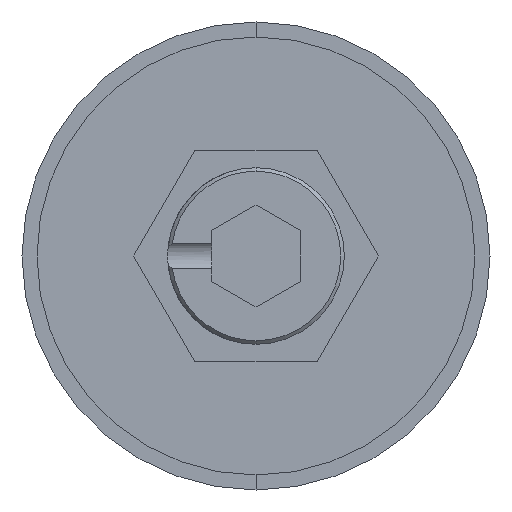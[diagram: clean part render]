
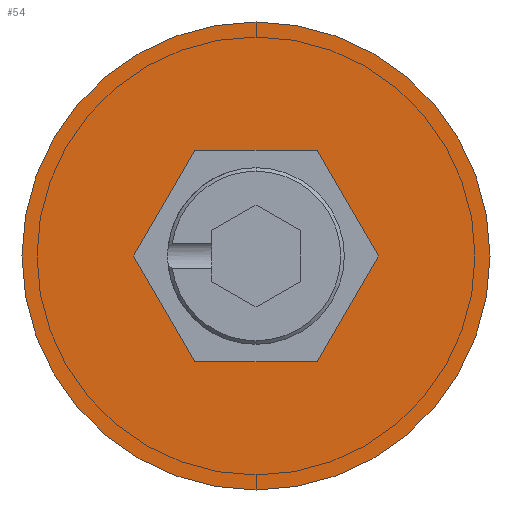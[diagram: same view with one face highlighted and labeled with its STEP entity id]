
A CAD part, front view. The second image highlights one B-rep face of the part: STEP entity #54.
In plain terms, the highlighted planar face has unit normal (0, -1, 0).
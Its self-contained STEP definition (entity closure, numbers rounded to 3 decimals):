
#13 = DIRECTION ( 'NONE',  ( 0., 0., -1. ) ) ;
#54 = ADVANCED_FACE ( 'NONE', ( #642, #662 ), #1541, .T. ) ;
#144 = ORIENTED_EDGE ( 'NONE', *, *, #1380, .F. ) ;
#148 = LINE ( 'NONE', #1231, #620 ) ;
#192 = CARTESIAN_POINT ( 'NONE',  ( -3.464, 0., -6. ) ) ;
#198 = DIRECTION ( 'NONE',  ( 0., -1., 0. ) ) ;
#212 = EDGE_CURVE ( 'NONE', #1117, #1332, #1962, .T. ) ;
#262 = EDGE_CURVE ( 'NONE', #1682, #933, #684, .T. ) ;
#294 = ORIENTED_EDGE ( 'NONE', *, *, #1017, .F. ) ;
#322 = AXIS2_PLACEMENT_3D ( 'NONE', #2076, #198, #13 ) ;
#323 = VERTEX_POINT ( 'NONE', #192 ) ;
#399 = DIRECTION ( 'NONE',  ( -0.5, 0., 0.866 ) ) ;
#417 = ORIENTED_EDGE ( 'NONE', *, *, #1663, .F. ) ;
#421 = LINE ( 'NONE', #879, #2168 ) ;
#435 = ORIENTED_EDGE ( 'NONE', *, *, #1443, .T. ) ;
#465 = VERTEX_POINT ( 'NONE', #1579 ) ;
#497 = ORIENTED_EDGE ( 'NONE', *, *, #1418, .F. ) ;
#620 = VECTOR ( 'NONE', #693, 1000. ) ;
#642 = FACE_BOUND ( 'NONE', #1846, .T. ) ;
#648 = ORIENTED_EDGE ( 'NONE', *, *, #262, .T. ) ;
#662 = FACE_OUTER_BOUND ( 'NONE', #2183, .T. ) ;
#684 = CIRCLE ( 'NONE', #765, 13.25 ) ;
#693 = DIRECTION ( 'NONE',  ( 0.5, 0., 0.866 ) ) ;
#765 = AXIS2_PLACEMENT_3D ( 'NONE', #1451, #1532, #1547 ) ;
#879 = CARTESIAN_POINT ( 'NONE',  ( -3.464, 0., -6. ) ) ;
#887 = DIRECTION ( 'NONE',  ( 0.5, 0., -0.866 ) ) ;
#915 = CARTESIAN_POINT ( 'NONE',  ( 3.464, 0., -6. ) ) ;
#933 = VERTEX_POINT ( 'NONE', #2185 ) ;
#987 = CARTESIAN_POINT ( 'NONE',  ( -3.464, 0., 6. ) ) ;
#990 = LINE ( 'NONE', #2093, #1906 ) ;
#991 = VECTOR ( 'NONE', #887, 1000. ) ;
#1017 = EDGE_CURVE ( 'NONE', #1458, #1117, #148, .T. ) ;
#1117 = VERTEX_POINT ( 'NONE', #1183 ) ;
#1173 = CARTESIAN_POINT ( 'NONE',  ( 6.928, 0., 0. ) ) ;
#1183 = CARTESIAN_POINT ( 'NONE',  ( 6.928, 0., 0. ) ) ;
#1231 = CARTESIAN_POINT ( 'NONE',  ( 3.464, 0., -6. ) ) ;
#1250 = ORIENTED_EDGE ( 'NONE', *, *, #1893, .F. ) ;
#1332 = VERTEX_POINT ( 'NONE', #2121 ) ;
#1347 = LINE ( 'NONE', #1396, #991 ) ;
#1380 = EDGE_CURVE ( 'NONE', #323, #1458, #421, .T. ) ;
#1396 = CARTESIAN_POINT ( 'NONE',  ( -6.928, 0., 0. ) ) ;
#1418 = EDGE_CURVE ( 'NONE', #2015, #323, #1347, .T. ) ;
#1443 = EDGE_CURVE ( 'NONE', #933, #1682, #2176, .T. ) ;
#1451 = CARTESIAN_POINT ( 'NONE',  ( 0., 0., 0. ) ) ;
#1458 = VERTEX_POINT ( 'NONE', #915 ) ;
#1487 = CARTESIAN_POINT ( 'NONE',  ( 0., 0., 0. ) ) ;
#1532 = DIRECTION ( 'NONE',  ( 0., -1., 0. ) ) ;
#1541 = PLANE ( 'NONE',  #2063 ) ;
#1547 = DIRECTION ( 'NONE',  ( 0., 0., -1. ) ) ;
#1549 = DIRECTION ( 'NONE',  ( 0., -1., 0. ) ) ;
#1579 = CARTESIAN_POINT ( 'NONE',  ( -3.464, 0., 6. ) ) ;
#1581 = DIRECTION ( 'NONE',  ( -1., 0., 0. ) ) ;
#1584 = DIRECTION ( 'NONE',  ( 0., 0., -1. ) ) ;
#1588 = DIRECTION ( 'NONE',  ( 1., 0., 0. ) ) ;
#1624 = DIRECTION ( 'NONE',  ( -0.5, 0., -0.866 ) ) ;
#1640 = VECTOR ( 'NONE', #399, 1000. ) ;
#1663 = EDGE_CURVE ( 'NONE', #465, #2015, #2193, .T. ) ;
#1682 = VERTEX_POINT ( 'NONE', #2167 ) ;
#1773 = VECTOR ( 'NONE', #1624, 1000. ) ;
#1829 = CARTESIAN_POINT ( 'NONE',  ( -6.928, 0., 0. ) ) ;
#1846 = EDGE_LOOP ( 'NONE', ( #144, #497, #417, #1250, #1932, #294 ) ) ;
#1893 = EDGE_CURVE ( 'NONE', #1332, #465, #990, .T. ) ;
#1906 = VECTOR ( 'NONE', #1581, 1000. ) ;
#1932 = ORIENTED_EDGE ( 'NONE', *, *, #212, .F. ) ;
#1962 = LINE ( 'NONE', #1173, #1640 ) ;
#2015 = VERTEX_POINT ( 'NONE', #1829 ) ;
#2063 = AXIS2_PLACEMENT_3D ( 'NONE', #1487, #1549, #1584 ) ;
#2076 = CARTESIAN_POINT ( 'NONE',  ( 0., 0., 0. ) ) ;
#2093 = CARTESIAN_POINT ( 'NONE',  ( 3.464, 0., 6. ) ) ;
#2121 = CARTESIAN_POINT ( 'NONE',  ( 3.464, 0., 6. ) ) ;
#2167 = CARTESIAN_POINT ( 'NONE',  ( 0., 0., 13.25 ) ) ;
#2168 = VECTOR ( 'NONE', #1588, 1000. ) ;
#2176 = CIRCLE ( 'NONE', #322, 13.25 ) ;
#2183 = EDGE_LOOP ( 'NONE', ( #435, #648 ) ) ;
#2185 = CARTESIAN_POINT ( 'NONE',  ( 0., 0., -13.25 ) ) ;
#2193 = LINE ( 'NONE', #987, #1773 ) ;
